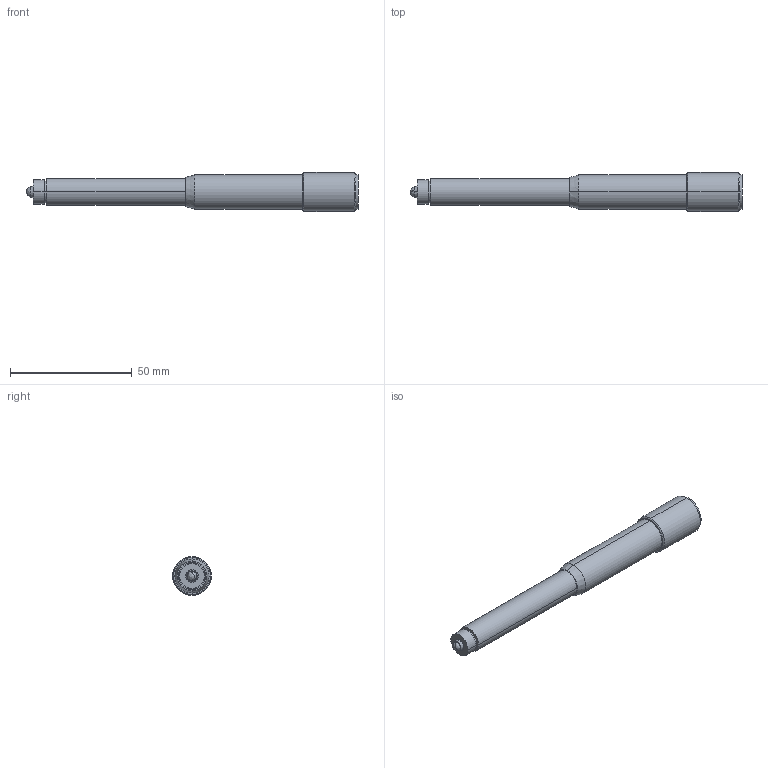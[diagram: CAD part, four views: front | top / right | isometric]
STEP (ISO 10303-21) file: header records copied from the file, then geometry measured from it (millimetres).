
FILE_DESCRIPTION (( 'STEP AP203' ), '1' );
FILE_NAME ('9S75M-50.STEP', '2008-10-23T21:54:23', ( 'Darius' ), ( '' ), 'SwSTEP 2.0', 'SolidWorks 2003240', '' );
FILE_SCHEMA (( 'CONFIG_CONTROL_DESIGN' ));
Length unit declared in the file: millimetre
Products named in the file (1): 9S75M-50
Bounding box: 136.19 x 16 x 16 mm (x, y, z)
Volume: 13314.9 mm3; surface area: 11053.5 mm2
Topology: 1 solids, 3 shells, 174 faces, 447 edges, 295 vertices
Faces by surface type: bspline 73, plane 58, cylinder 28, cone 15
Entity records: 7044 total; most frequent: CARTESIAN_POINT 3160, ORIENTED_EDGE 890, DIRECTION 587, EDGE_CURVE 445, VERTEX_POINT 295, LINE 219, VECTOR 219, EDGE_LOOP 194
